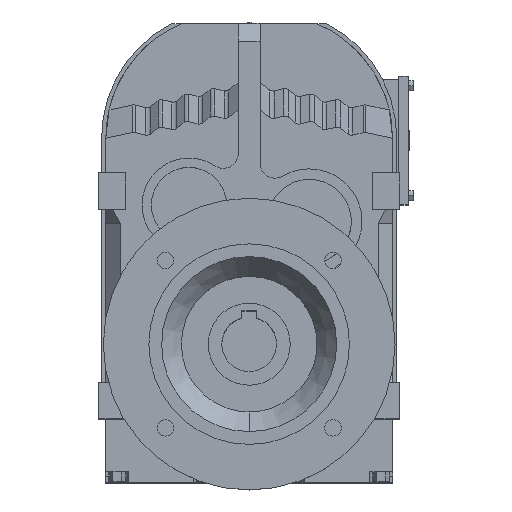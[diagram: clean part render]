
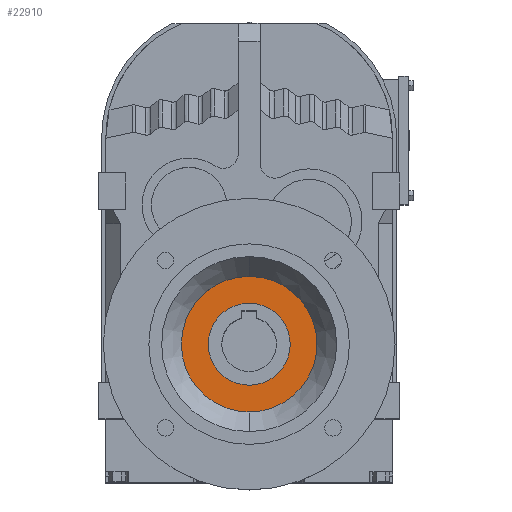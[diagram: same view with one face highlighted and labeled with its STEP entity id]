
A CAD part, top view. The second image highlights one B-rep face of the part: STEP entity #22910.
In plain terms, the highlighted planar face has unit normal (0, 0, 1).
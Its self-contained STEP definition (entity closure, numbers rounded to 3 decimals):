
#21478 = CYLINDRICAL_SURFACE('',#21479,37.2);
#21479 = AXIS2_PLACEMENT_3D('',#21480,#21481,#21482);
#21480 = CARTESIAN_POINT('',(0.,-112.,110.123));
#21481 = DIRECTION('',(0.,0.,1.));
#21482 = DIRECTION('',(1.,0.,0.));
#21504 = CYLINDRICAL_SURFACE('',#21505,37.2);
#21505 = AXIS2_PLACEMENT_3D('',#21506,#21507,#21508);
#21506 = CARTESIAN_POINT('',(0.,-112.,110.123));
#21507 = DIRECTION('',(0.,0.,1.));
#21508 = DIRECTION('',(1.,0.,0.));
#21996 = CYLINDRICAL_SURFACE('',#21997,22.5);
#21997 = AXIS2_PLACEMENT_3D('',#21998,#21999,#22000);
#21998 = CARTESIAN_POINT('',(0.,-112.,110.123));
#21999 = DIRECTION('',(0.,0.,1.));
#22000 = DIRECTION('',(1.,0.,0.));
#22026 = CYLINDRICAL_SURFACE('',#22027,22.5);
#22027 = AXIS2_PLACEMENT_3D('',#22028,#22029,#22030);
#22028 = CARTESIAN_POINT('',(0.,-112.,110.123));
#22029 = DIRECTION('',(0.,0.,1.));
#22030 = DIRECTION('',(1.,0.,0.));
#22208 = VERTEX_POINT('',#22209);
#22209 = CARTESIAN_POINT('',(-37.2,-112.,106.));
#22230 = VERTEX_POINT('',#22231);
#22231 = CARTESIAN_POINT('',(37.2,-112.,106.));
#22250 = EDGE_CURVE('',#22230,#22208,#22251,.T.);
#22251 = SURFACE_CURVE('',#22252,(#22257,#22263),.PCURVE_S1.);
#22252 = CIRCLE('',#22253,37.2);
#22253 = AXIS2_PLACEMENT_3D('',#22254,#22255,#22256);
#22254 = CARTESIAN_POINT('',(0.,-112.,106.));
#22255 = DIRECTION('',(0.,0.,1.));
#22256 = DIRECTION('',(1.,0.,0.));
#22257 = PCURVE('',#21478,#22258);
#22258 = DEFINITIONAL_REPRESENTATION('',(#22259),#22262);
#22259 = B_SPLINE_CURVE_WITH_KNOTS('',1,(#22260,#22261),.UNSPECIFIED.,
  .F.,.F.,(2,2),(0.,3.142),.PIECEWISE_BEZIER_KNOTS.);
#22260 = CARTESIAN_POINT('',(0.,-4.123));
#22261 = CARTESIAN_POINT('',(3.142,-4.123));
#22262 = ( GEOMETRIC_REPRESENTATION_CONTEXT(2) 
PARAMETRIC_REPRESENTATION_CONTEXT() REPRESENTATION_CONTEXT('2D SPACE',''
  ) );
#22263 = PCURVE('',#22264,#22269);
#22264 = PLANE('',#22265);
#22265 = AXIS2_PLACEMENT_3D('',#22266,#22267,#22268);
#22266 = CARTESIAN_POINT('',(0.,-74.8,106.));
#22267 = DIRECTION('',(0.,0.,1.));
#22268 = DIRECTION('',(1.,0.,0.));
#22269 = DEFINITIONAL_REPRESENTATION('',(#22270),#22274);
#22270 = CIRCLE('',#22271,37.2);
#22271 = AXIS2_PLACEMENT_2D('',#22272,#22273);
#22272 = CARTESIAN_POINT('',(0.,-37.2));
#22273 = DIRECTION('',(1.,0.));
#22274 = ( GEOMETRIC_REPRESENTATION_CONTEXT(2) 
PARAMETRIC_REPRESENTATION_CONTEXT() REPRESENTATION_CONTEXT('2D SPACE',''
  ) );
#22720 = EDGE_CURVE('',#22208,#22230,#22721,.T.);
#22721 = SURFACE_CURVE('',#22722,(#22727,#22733),.PCURVE_S1.);
#22722 = CIRCLE('',#22723,37.2);
#22723 = AXIS2_PLACEMENT_3D('',#22724,#22725,#22726);
#22724 = CARTESIAN_POINT('',(0.,-112.,106.));
#22725 = DIRECTION('',(0.,0.,1.));
#22726 = DIRECTION('',(1.,0.,0.));
#22727 = PCURVE('',#21504,#22728);
#22728 = DEFINITIONAL_REPRESENTATION('',(#22729),#22732);
#22729 = B_SPLINE_CURVE_WITH_KNOTS('',1,(#22730,#22731),.UNSPECIFIED.,
  .F.,.F.,(2,2),(3.142,6.283),.PIECEWISE_BEZIER_KNOTS.);
#22730 = CARTESIAN_POINT('',(3.142,-4.123));
#22731 = CARTESIAN_POINT('',(6.283,-4.123));
#22732 = ( GEOMETRIC_REPRESENTATION_CONTEXT(2) 
PARAMETRIC_REPRESENTATION_CONTEXT() REPRESENTATION_CONTEXT('2D SPACE',''
  ) );
#22733 = PCURVE('',#22264,#22734);
#22734 = DEFINITIONAL_REPRESENTATION('',(#22735),#22739);
#22735 = CIRCLE('',#22736,37.2);
#22736 = AXIS2_PLACEMENT_2D('',#22737,#22738);
#22737 = CARTESIAN_POINT('',(0.,-37.2));
#22738 = DIRECTION('',(1.,0.));
#22739 = ( GEOMETRIC_REPRESENTATION_CONTEXT(2) 
PARAMETRIC_REPRESENTATION_CONTEXT() REPRESENTATION_CONTEXT('2D SPACE',''
  ) );
#22817 = VERTEX_POINT('',#22818);
#22818 = CARTESIAN_POINT('',(22.5,-112.,106.));
#22837 = EDGE_CURVE('',#22838,#22817,#22840,.T.);
#22838 = VERTEX_POINT('',#22839);
#22839 = CARTESIAN_POINT('',(-22.5,-112.,106.));
#22840 = SURFACE_CURVE('',#22841,(#22846,#22852),.PCURVE_S1.);
#22841 = CIRCLE('',#22842,22.5);
#22842 = AXIS2_PLACEMENT_3D('',#22843,#22844,#22845);
#22843 = CARTESIAN_POINT('',(0.,-112.,106.));
#22844 = DIRECTION('',(0.,0.,1.));
#22845 = DIRECTION('',(1.,0.,0.));
#22846 = PCURVE('',#22026,#22847);
#22847 = DEFINITIONAL_REPRESENTATION('',(#22848),#22851);
#22848 = B_SPLINE_CURVE_WITH_KNOTS('',1,(#22849,#22850),.UNSPECIFIED.,
  .F.,.F.,(2,2),(3.142,6.283),.PIECEWISE_BEZIER_KNOTS.);
#22849 = CARTESIAN_POINT('',(3.142,-4.123));
#22850 = CARTESIAN_POINT('',(6.283,-4.123));
#22851 = ( GEOMETRIC_REPRESENTATION_CONTEXT(2) 
PARAMETRIC_REPRESENTATION_CONTEXT() REPRESENTATION_CONTEXT('2D SPACE',''
  ) );
#22852 = PCURVE('',#22264,#22853);
#22853 = DEFINITIONAL_REPRESENTATION('',(#22854),#22858);
#22854 = CIRCLE('',#22855,22.5);
#22855 = AXIS2_PLACEMENT_2D('',#22856,#22857);
#22856 = CARTESIAN_POINT('',(0.,-37.2));
#22857 = DIRECTION('',(1.,0.));
#22858 = ( GEOMETRIC_REPRESENTATION_CONTEXT(2) 
PARAMETRIC_REPRESENTATION_CONTEXT() REPRESENTATION_CONTEXT('2D SPACE',''
  ) );
#22883 = EDGE_CURVE('',#22817,#22838,#22884,.T.);
#22884 = SURFACE_CURVE('',#22885,(#22890,#22896),.PCURVE_S1.);
#22885 = CIRCLE('',#22886,22.5);
#22886 = AXIS2_PLACEMENT_3D('',#22887,#22888,#22889);
#22887 = CARTESIAN_POINT('',(0.,-112.,106.));
#22888 = DIRECTION('',(0.,0.,1.));
#22889 = DIRECTION('',(1.,0.,0.));
#22890 = PCURVE('',#21996,#22891);
#22891 = DEFINITIONAL_REPRESENTATION('',(#22892),#22895);
#22892 = B_SPLINE_CURVE_WITH_KNOTS('',1,(#22893,#22894),.UNSPECIFIED.,
  .F.,.F.,(2,2),(0.,3.142),.PIECEWISE_BEZIER_KNOTS.);
#22893 = CARTESIAN_POINT('',(0.,-4.123));
#22894 = CARTESIAN_POINT('',(3.142,-4.123));
#22895 = ( GEOMETRIC_REPRESENTATION_CONTEXT(2) 
PARAMETRIC_REPRESENTATION_CONTEXT() REPRESENTATION_CONTEXT('2D SPACE',''
  ) );
#22896 = PCURVE('',#22264,#22897);
#22897 = DEFINITIONAL_REPRESENTATION('',(#22898),#22902);
#22898 = CIRCLE('',#22899,22.5);
#22899 = AXIS2_PLACEMENT_2D('',#22900,#22901);
#22900 = CARTESIAN_POINT('',(0.,-37.2));
#22901 = DIRECTION('',(1.,0.));
#22902 = ( GEOMETRIC_REPRESENTATION_CONTEXT(2) 
PARAMETRIC_REPRESENTATION_CONTEXT() REPRESENTATION_CONTEXT('2D SPACE',''
  ) );
#22910 = ADVANCED_FACE('',(#22911,#22915),#22264,.T.);
#22911 = FACE_BOUND('',#22912,.T.);
#22912 = EDGE_LOOP('',(#22913,#22914));
#22913 = ORIENTED_EDGE('',*,*,#22250,.T.);
#22914 = ORIENTED_EDGE('',*,*,#22720,.T.);
#22915 = FACE_BOUND('',#22916,.T.);
#22916 = EDGE_LOOP('',(#22917,#22918));
#22917 = ORIENTED_EDGE('',*,*,#22883,.F.);
#22918 = ORIENTED_EDGE('',*,*,#22837,.F.);
